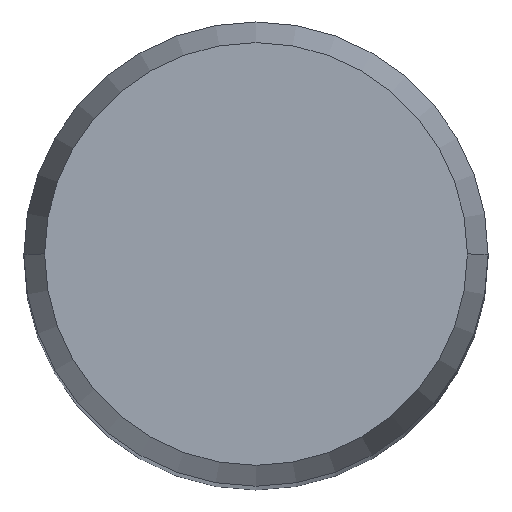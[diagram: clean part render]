
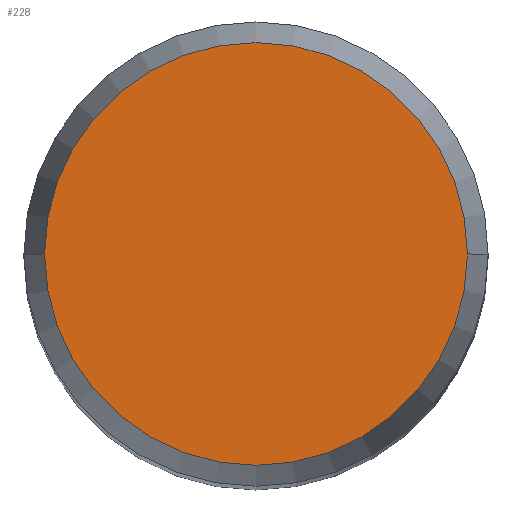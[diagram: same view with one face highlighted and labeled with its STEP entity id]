
A CAD part, top view. The second image highlights one B-rep face of the part: STEP entity #228.
In plain terms, the highlighted planar face has unit normal (0, 0, 1).
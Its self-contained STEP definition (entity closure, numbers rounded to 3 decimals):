
#17 = AXIS2_PLACEMENT_3D ( 'NONE', #169, #143, #163 ) ;
#26 = EDGE_CURVE ( 'NONE', #104, #77, #84, .T. ) ;
#27 = AXIS2_PLACEMENT_3D ( 'NONE', #170, #171, #157 ) ;
#36 = AXIS2_PLACEMENT_3D ( 'NONE', #166, #160, #172 ) ;
#41 = EDGE_CURVE ( 'NONE', #77, #104, #107, .T. ) ;
#76 = FACE_OUTER_BOUND ( 'NONE', #124, .T. ) ;
#77 = VERTEX_POINT ( 'NONE', #188 ) ;
#84 = CIRCLE ( 'NONE', #36, 1.366 ) ;
#104 = VERTEX_POINT ( 'NONE', #191 ) ;
#107 = CIRCLE ( 'NONE', #27, 1.366 ) ;
#124 = EDGE_LOOP ( 'NONE', ( #131, #130 ) ) ;
#130 = ORIENTED_EDGE ( 'NONE', *, *, #41, .T. ) ;
#131 = ORIENTED_EDGE ( 'NONE', *, *, #26, .T. ) ;
#143 = DIRECTION ( 'NONE',  ( 0., 0., 1. ) ) ;
#157 = DIRECTION ( 'NONE',  ( 1., 0., 0. ) ) ;
#160 = DIRECTION ( 'NONE',  ( 0., 0., 1. ) ) ;
#163 = DIRECTION ( 'NONE',  ( 1., 0., 0. ) ) ;
#166 = CARTESIAN_POINT ( 'NONE',  ( 0., 0., 15. ) ) ;
#169 = CARTESIAN_POINT ( 'NONE',  ( 0., 0., 15. ) ) ;
#170 = CARTESIAN_POINT ( 'NONE',  ( 0., 0., 15. ) ) ;
#171 = DIRECTION ( 'NONE',  ( 0., 0., 1. ) ) ;
#172 = DIRECTION ( 'NONE',  ( 1., 0., 0. ) ) ;
#174 = PLANE ( 'NONE',  #17 ) ;
#188 = CARTESIAN_POINT ( 'NONE',  ( 1.366, 0., 15. ) ) ;
#191 = CARTESIAN_POINT ( 'NONE',  ( -1.366, 0., 15. ) ) ;
#228 = ADVANCED_FACE ( 'NONE', ( #76 ), #174, .T. ) ;
